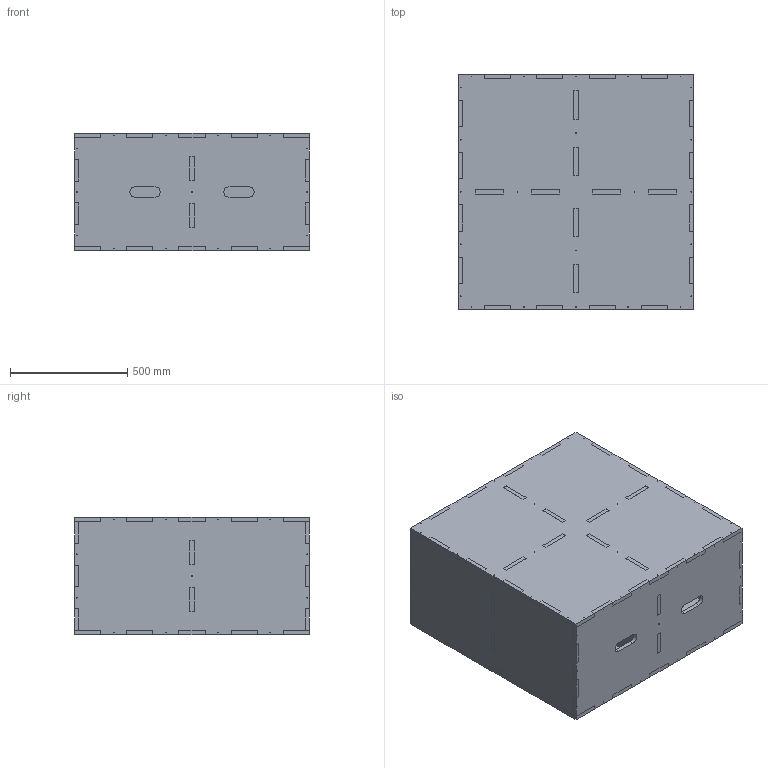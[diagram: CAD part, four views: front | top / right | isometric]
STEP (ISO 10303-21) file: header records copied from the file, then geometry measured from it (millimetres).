
FILE_DESCRIPTION(('Open CASCADE Model'),'2;1');
FILE_NAME('Open CASCADE Shape Model','2026-09-28T10:14:26',('Author'),( 'Open CASCADE'),'Open CASCADE STEP processor 7.9','Open CASCADE 7.9' ,'Unknown');
FILE_SCHEMA(('AUTOMOTIVE_DESIGN { 1 0 10303 214 1 1 1 1 }'));
Length unit declared in the file: millimetre
Products named in the file (9): box_500x1000x1000_ply; box_500x1000x1000_ply/bottom; box_500x1000x1000_ply/top; box_500x1000x1000_ply/front; box_500x1000x1000_ply/back; box_500x1000x1000_ply/end_left; box_500x1000x1000_ply/end_right; box_500x1000x1000_ply/rib_y; box_500x1000x1000_ply/rib_x_0
Assembly tree (8 placements, depth 2):
  box_500x1000x1000_ply
    box_500x1000x1000_ply/bottom
    box_500x1000x1000_ply/top
    box_500x1000x1000_ply/front
    box_500x1000x1000_ply/back
    box_500x1000x1000_ply/end_left
    box_500x1000x1000_ply/end_right
    box_500x1000x1000_ply/rib_y
    box_500x1000x1000_ply/rib_x_0
Bounding box: 1000 x 1000 x 500 mm (x, y, z)
Volume: 84346840.9 mm3; surface area: 10061946.2 mm2
Topology: 8 solids, 8 shells, 688 faces, 2016 edges, 1344 vertices
Faces by surface type: plane 576, cylinder 112
Full cylindrical faces by diameter (mm): 2.5 x104
Entity records: 49070 total; most frequent: CARTESIAN_POINT 8525, DIRECTION 7230, LINE 5164, VECTOR 5164, ORIENTED_EDGE 4032, PCURVE 4032, DEFINITIONAL_REPRESENTATION 4032, EDGE_CURVE 2016
